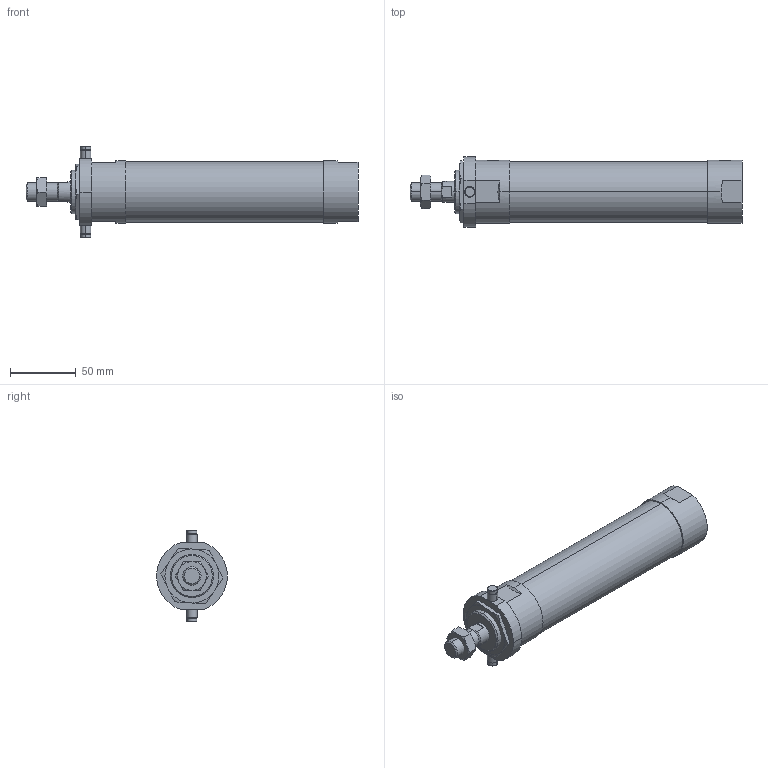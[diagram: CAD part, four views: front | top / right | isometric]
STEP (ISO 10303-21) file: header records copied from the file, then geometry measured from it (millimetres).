
FILE_DESCRIPTION (( 'STEP AP203' ), '1' );
FILE_NAME ('JGND2-40-100-T.STEP', '2016-08-04T03:11:03', ( '' ), ( '' ), 'SwSTEP 2.0', 'SolidWorks 2014', '' );
FILE_SCHEMA (( 'CONFIG_CONTROL_DESIGN' ));
Length unit declared in the file: millimetre
Products named in the file (5): J#2-40-100(P); JGND2-40-100-T; J#2-40-T
Assembly tree (4 placements, depth 2):
  JGND2-40-100-T
    J#2-40-100(P)
    (unnamed)
    (unnamed)
    J#2-40-T
Bounding box: 253 x 53.91 x 70 mm (x, y, z)
Volume: 378323.9 mm3; surface area: 47126.1 mm2
Topology: 4 solids, 4 shells, 116 faces, 269 edges, 165 vertices
Faces by surface type: plane 38, cylinder 33, torus 24, cone 21
Entity records: 4135 total; most frequent: CARTESIAN_POINT 1032, DIRECTION 550, ORIENTED_EDGE 530, EDGE_CURVE 265, AXIS2_PLACEMENT_3D 225, VERTEX_POINT 165, EDGE_LOOP 130, ADVANCED_FACE 116
